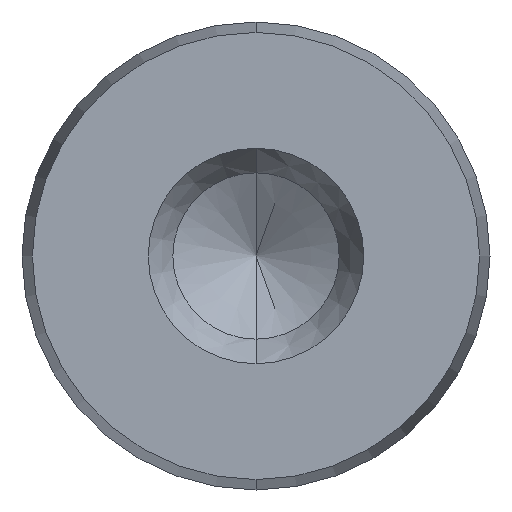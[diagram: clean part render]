
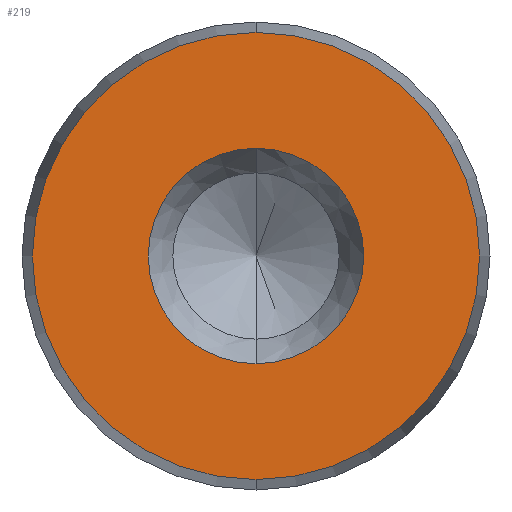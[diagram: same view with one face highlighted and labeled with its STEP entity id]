
A CAD part, front view. The second image highlights one B-rep face of the part: STEP entity #219.
In plain terms, the highlighted planar face has unit normal (0, -1, 0).
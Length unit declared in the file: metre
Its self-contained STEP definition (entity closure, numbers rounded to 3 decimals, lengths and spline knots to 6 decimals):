
#40 = AXIS2_PLACEMENT_3D ( 'NONE', #492, #540, #538 ) ;
#41 = CIRCLE ( 'NONE', #40, 0.004375 ) ;
#57 = EDGE_CURVE ( 'NONE', #192, #205, #41, .T. ) ;
#64 = EDGE_CURVE ( 'NONE', #205, #192, #299, .T. ) ;
#68 = EDGE_CURVE ( 'NONE', #149, #209, #285, .T. ) ;
#86 = EDGE_CURVE ( 'NONE', #209, #149, #263, .T. ) ;
#114 = ORIENTED_EDGE ( 'NONE', *, *, #57, .F. ) ;
#127 = ORIENTED_EDGE ( 'NONE', *, *, #86, .T. ) ;
#149 = VERTEX_POINT ( 'NONE', #553 ) ;
#152 = ORIENTED_EDGE ( 'NONE', *, *, #68, .T. ) ;
#157 = EDGE_LOOP ( 'NONE', ( #183, #114 ) ) ;
#172 = EDGE_LOOP ( 'NONE', ( #127, #152 ) ) ;
#183 = ORIENTED_EDGE ( 'NONE', *, *, #64, .F. ) ;
#192 = VERTEX_POINT ( 'NONE', #590 ) ;
#205 = VERTEX_POINT ( 'NONE', #349 ) ;
#209 = VERTEX_POINT ( 'NONE', #581 ) ;
#219 = ADVANCED_FACE ( 'NONE', ( #443, #397 ), #409, .T. ) ;
#263 = CIRCLE ( 'NONE', #273, 0.009078 ) ;
#273 = AXIS2_PLACEMENT_3D ( 'NONE', #530, #433, #546 ) ;
#285 = CIRCLE ( 'NONE', #286, 0.009078 ) ;
#286 = AXIS2_PLACEMENT_3D ( 'NONE', #440, #391, #381 ) ;
#298 = AXIS2_PLACEMENT_3D ( 'NONE', #358, #365, #404 ) ;
#299 = CIRCLE ( 'NONE', #298, 0.004375 ) ;
#323 = AXIS2_PLACEMENT_3D ( 'NONE', #408, #417, #578 ) ;
#349 = CARTESIAN_POINT ( 'NONE',  ( 0., 0., -0.004375 ) ) ;
#358 = CARTESIAN_POINT ( 'NONE',  ( 0., 0., 0. ) ) ;
#365 = DIRECTION ( 'NONE',  ( 0., -1., 0. ) ) ;
#381 = DIRECTION ( 'NONE',  ( 0., 0., -1. ) ) ;
#391 = DIRECTION ( 'NONE',  ( 0., -1., 0. ) ) ;
#397 = FACE_BOUND ( 'NONE', #157, .T. ) ;
#404 = DIRECTION ( 'NONE',  ( 0., 0., -1. ) ) ;
#408 = CARTESIAN_POINT ( 'NONE',  ( 0.004375, 0., 0. ) ) ;
#409 = PLANE ( 'NONE',  #323 ) ;
#417 = DIRECTION ( 'NONE',  ( 0., -1., 0. ) ) ;
#433 = DIRECTION ( 'NONE',  ( 0., -1., 0. ) ) ;
#440 = CARTESIAN_POINT ( 'NONE',  ( 0., 0., 0. ) ) ;
#443 = FACE_OUTER_BOUND ( 'NONE', #172, .T. ) ;
#492 = CARTESIAN_POINT ( 'NONE',  ( 0., 0., 0. ) ) ;
#530 = CARTESIAN_POINT ( 'NONE',  ( 0., 0., 0. ) ) ;
#538 = DIRECTION ( 'NONE',  ( 0., 0., -1. ) ) ;
#540 = DIRECTION ( 'NONE',  ( 0., -1., 0. ) ) ;
#546 = DIRECTION ( 'NONE',  ( 0., 0., -1. ) ) ;
#553 = CARTESIAN_POINT ( 'NONE',  ( 0., 0., -0.009078 ) ) ;
#578 = DIRECTION ( 'NONE',  ( 0., 0., -1. ) ) ;
#581 = CARTESIAN_POINT ( 'NONE',  ( 0., 0., 0.009078 ) ) ;
#590 = CARTESIAN_POINT ( 'NONE',  ( 0., 0., 0.004375 ) ) ;
